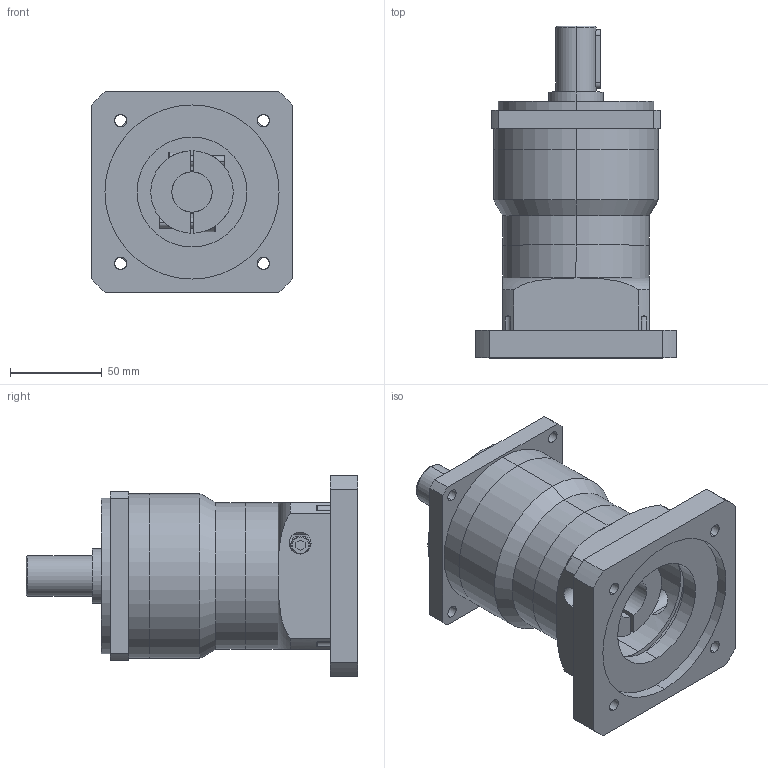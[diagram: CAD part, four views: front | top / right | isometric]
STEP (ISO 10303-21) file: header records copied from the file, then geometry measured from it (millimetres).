
FILE_DESCRIPTION (( 'STEP AP203' ), '1' );
FILE_NAME ('WPF090陔-L1俋倛芞(22-56-95-115-M8)蟀諉啣.STEP', '2018-09-07T02:22:02', ( 'wanshsin' ), ( 'Microsoft' ), 'SwSTEP 2.0', 'SolidWorks 2016', '' );
FILE_SCHEMA (( 'CONFIG_CONTROL_DESIGN' ));
Length unit declared in the file: millimetre
Products named in the file (1): WPF090新-L1外形图(22-56-95-115-M8)连接板
Bounding box: 110 x 181 x 110 mm (x, y, z)
Volume: 797418.1 mm3; surface area: 120391.7 mm2
Topology: 4 solids, 8 shells, 198 faces, 474 edges, 299 vertices
Faces by surface type: cylinder 98, plane 70, cone 20, torus 10
Entity records: 6451 total; most frequent: CARTESIAN_POINT 1634, DIRECTION 1054, ORIENTED_EDGE 928, EDGE_CURVE 464, AXIS2_PLACEMENT_3D 419, VERTEX_POINT 299, EDGE_LOOP 241, CIRCLE 220
